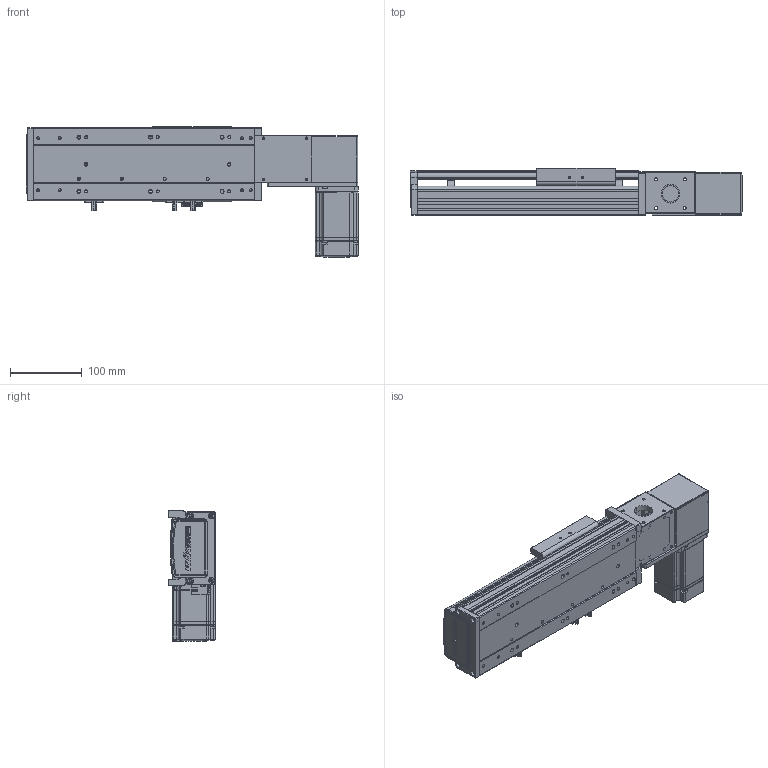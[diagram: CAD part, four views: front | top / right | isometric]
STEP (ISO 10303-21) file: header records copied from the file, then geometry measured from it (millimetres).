
FILE_DESCRIPTION (( 'STEP AP203' ), '1' );
FILE_NAME ('RY100-T-300-LK.SLDASM_100.step', '2024-04-25T05:36:24', ( '盈信电脑' ), ( '东莞市道滘镇水果街19号' ), 'SwSTEP 2.0', 'SolidWorks 2016', '' );
FILE_SCHEMA (( 'CONFIG_CONTROL_DESIGN' ));
Length unit declared in the file: millimetre
Products named in the file (13): RY100-T-300-RK倰第奻裔_100; RY100-T肮祭謫臏賑輸; 滅袉蝶18-10; RY100-T-300-LK.SLDASM_100; RY100-T左右折电机安装板; RY100-T-300-RK倰第菁釱_100; RY100-T翋肮祭謫裔啣2; RY80-T肮祭謫俋欶; RY100綴裔啣; RY100俋离覜茼え; 1; 覜茼ん672; RY100-T肮祭謫翋盓傅釱
Assembly tree (16 placements, depth 2):
  RY100-T-300-LK.SLDASM_100
    RY100-T-300-RK倰第菁釱_100
    RY100-T-300-RK倰第奻裔_100
    RY100-T肮祭謫臏賑輸
    RY100綴裔啣
    覜茼ん672  x3
    RY100俋离覜茼え
    RY100-T肮祭謫翋盓傅釱
    滅袉蝶18-10  x2
    RY100-T翋肮祭謫裔啣2  x2
    RY80-T肮祭謫俋欶
    RY100-T左右折电机安装板
    1
Bounding box: 464 x 66 x 182.5 mm (x, y, z)
Volume: 1177598.5 mm3; surface area: 432016.5 mm2
Topology: 16 solids, 16 shells, 2032 faces, 5623 edges, 3649 vertices
Faces by surface type: plane 1158, cylinder 673, cone 123, bspline 78
Entity records: 63681 total; most frequent: CARTESIAN_POINT 15225, ORIENTED_EDGE 9982, DIRECTION 9471, EDGE_CURVE 4991, LINE 3347, VECTOR 3347, VERTEX_POINT 3285, AXIS2_PLACEMENT_3D 3062
